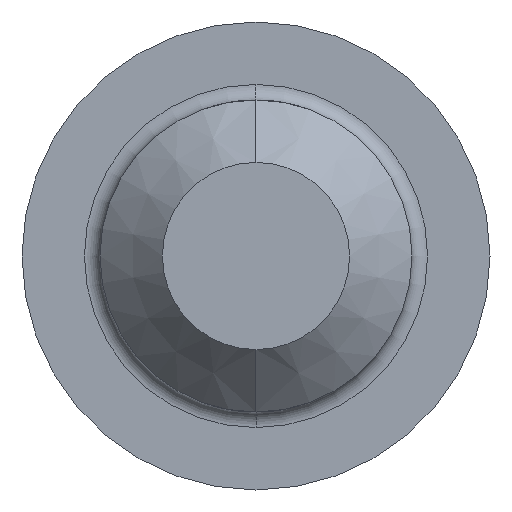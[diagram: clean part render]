
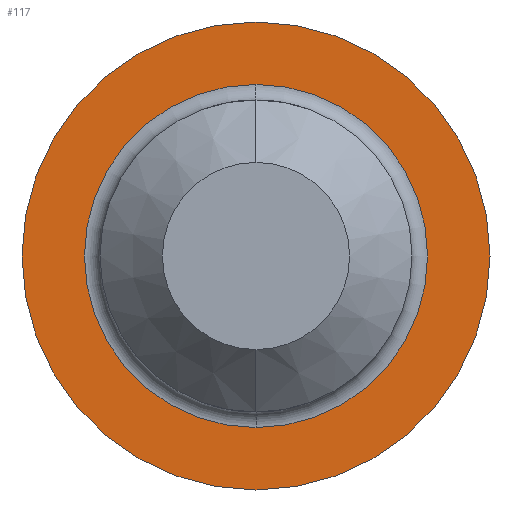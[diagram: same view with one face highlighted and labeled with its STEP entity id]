
A CAD part, left-side view. The second image highlights one B-rep face of the part: STEP entity #117.
In plain terms, the highlighted planar face has unit normal (-1, 0, 0).
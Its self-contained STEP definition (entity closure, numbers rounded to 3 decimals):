
#9 = ORIENTED_EDGE ( 'NONE', *, *, #112, .T. ) ;
#10 = VERTEX_POINT ( 'NONE', #282 ) ;
#11 = VERTEX_POINT ( 'NONE', #285 ) ;
#39 = EDGE_CURVE ( 'NONE', #10, #11, #253, .T. ) ;
#100 = VERTEX_POINT ( 'NONE', #363 ) ;
#101 = EDGE_LOOP ( 'NONE', ( #113, #118 ) ) ;
#112 = EDGE_CURVE ( 'NONE', #100, #184, #146, .T. ) ;
#113 = ORIENTED_EDGE ( 'NONE', *, *, #119, .T. ) ;
#117 = ADVANCED_FACE ( 'NONE', ( #322, #149 ), #513, .F. ) ;
#118 = ORIENTED_EDGE ( 'NONE', *, *, #39, .T. ) ;
#119 = EDGE_CURVE ( 'NONE', #11, #10, #506, .T. ) ;
#120 = EDGE_LOOP ( 'NONE', ( #122, #9 ) ) ;
#122 = ORIENTED_EDGE ( 'NONE', *, *, #190, .T. ) ;
#145 = CARTESIAN_POINT ( 'NONE',  ( 0., 0., 0. ) ) ;
#146 = CIRCLE ( 'NONE', #158, 4.5 ) ;
#149 = FACE_OUTER_BOUND ( 'NONE', #120, .T. ) ;
#150 = DIRECTION ( 'NONE',  ( 0., 0., 1. ) ) ;
#157 = DIRECTION ( 'NONE',  ( -1., 0., 0. ) ) ;
#158 = AXIS2_PLACEMENT_3D ( 'NONE', #145, #157, #150 ) ;
#184 = VERTEX_POINT ( 'NONE', #444 ) ;
#190 = EDGE_CURVE ( 'NONE', #184, #100, #425, .T. ) ;
#253 = CIRCLE ( 'NONE', #339, 3.3 ) ;
#282 = CARTESIAN_POINT ( 'NONE',  ( 0., 0., 3.3 ) ) ;
#285 = CARTESIAN_POINT ( 'NONE',  ( 0., 0., -3.3 ) ) ;
#322 = FACE_BOUND ( 'NONE', #101, .T. ) ;
#339 = AXIS2_PLACEMENT_3D ( 'NONE', #345, #342, #357 ) ;
#342 = DIRECTION ( 'NONE',  ( 1., 0., 0. ) ) ;
#345 = CARTESIAN_POINT ( 'NONE',  ( 0., 0., 0. ) ) ;
#357 = DIRECTION ( 'NONE',  ( 0., 0., -1. ) ) ;
#363 = CARTESIAN_POINT ( 'NONE',  ( 0., 0., -4.5 ) ) ;
#405 = CARTESIAN_POINT ( 'NONE',  ( 0., 4.5, 0. ) ) ;
#410 = DIRECTION ( 'NONE',  ( 0., 0., 1. ) ) ;
#411 = DIRECTION ( 'NONE',  ( -1., 0., 0. ) ) ;
#412 = CARTESIAN_POINT ( 'NONE',  ( 0., 0., 0. ) ) ;
#425 = CIRCLE ( 'NONE', #437, 4.5 ) ;
#430 = CARTESIAN_POINT ( 'NONE',  ( 0., 0., 0. ) ) ;
#437 = AXIS2_PLACEMENT_3D ( 'NONE', #412, #411, #410 ) ;
#444 = CARTESIAN_POINT ( 'NONE',  ( 0., 0., 4.5 ) ) ;
#505 = AXIS2_PLACEMENT_3D ( 'NONE', #430, #538, #539 ) ;
#506 = CIRCLE ( 'NONE', #505, 3.3 ) ;
#513 = PLANE ( 'NONE',  #537 ) ;
#532 = DIRECTION ( 'NONE',  ( 1., 0., 0. ) ) ;
#537 = AXIS2_PLACEMENT_3D ( 'NONE', #405, #532, #540 ) ;
#538 = DIRECTION ( 'NONE',  ( 1., 0., 0. ) ) ;
#539 = DIRECTION ( 'NONE',  ( 0., 0., -1. ) ) ;
#540 = DIRECTION ( 'NONE',  ( 0., 0., -1. ) ) ;
